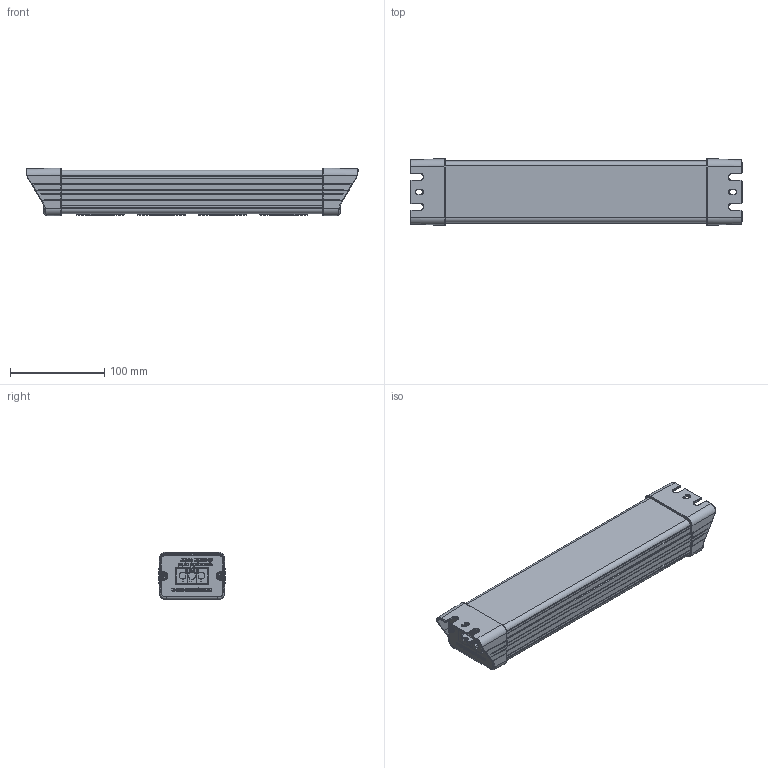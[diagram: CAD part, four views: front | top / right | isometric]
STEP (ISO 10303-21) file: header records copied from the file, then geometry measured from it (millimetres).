
FILE_DESCRIPTION(('Creo Elements/Direct Modeling STEP Export'),'2;1');
FILE_NAME('226320016 Kundenstep.stp','2025-10-02T14:47:12',(''),(''),'Creo Elements/Direct Modeling STEP processor for AP214 (Solid Model)','Creo Elements/Direct Modeling 20.5 09-Apr-2022 (C) Parametric Technology GmbH','');
FILE_SCHEMA(('AUTOMOTIVE_DESIGN { 1 0 10303 214 1 1 1 1 }'));
Products named in the file (2): T1
Assembly tree (1 placements, depth 2):
  T1
    T1
Bounding box: 352.6 x 70.97 x 50.58 mm (x, y, z)
Volume: 878417.2 mm3; surface area: 137409 mm2
Topology: 1 solids, 25 shells, 7088 faces, 20168 edges, 13198 vertices
Faces by surface type: plane 5456, cylinder 735, bspline 375, cone 248, torus 150, extrusion 84, sphere 40
Entity records: 293513 total; most frequent: CARTESIAN_POINT 114056, ORIENTED_EDGE 40188, DIRECTION 31734, EDGE_CURVE 20094, VECTOR 15520, LINE 15436, VERTEX_POINT 13198, AXIS2_PLACEMENT_3D 8107
